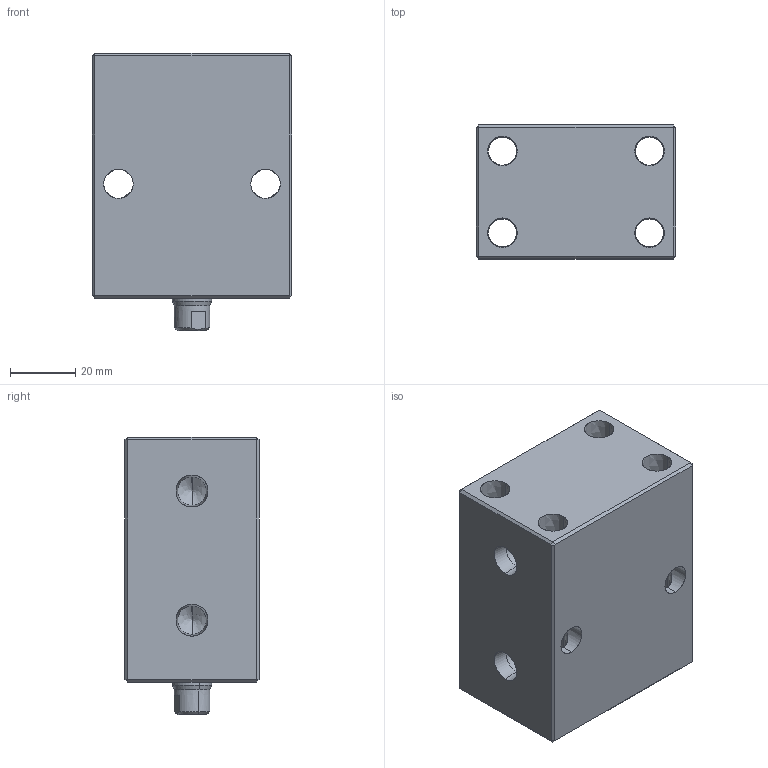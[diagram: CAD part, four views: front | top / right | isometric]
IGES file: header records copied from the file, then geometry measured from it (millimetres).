
Start section: SolidWorks IGES file using analytic representation for surfaces
Global section: file name: E:\ALL-SSVT-BLOCK\IGS MODEL-20BORE\BC04-20-25-F.IGS; native system: SolidWorks 2019; preprocessor: SolidWorks 2019; author: SSVT; date: 210823.180626; units: millimetre
Bounding box: 61 x 41 x 85 mm (x, y, z)
Surface area: 34100.3 mm2 (no closed solid volume)
Topology: 0 solids, 0 shells, 95 faces, 1670 edges, 1664 vertices
Faces by surface type: revolution 62, bspline 33
